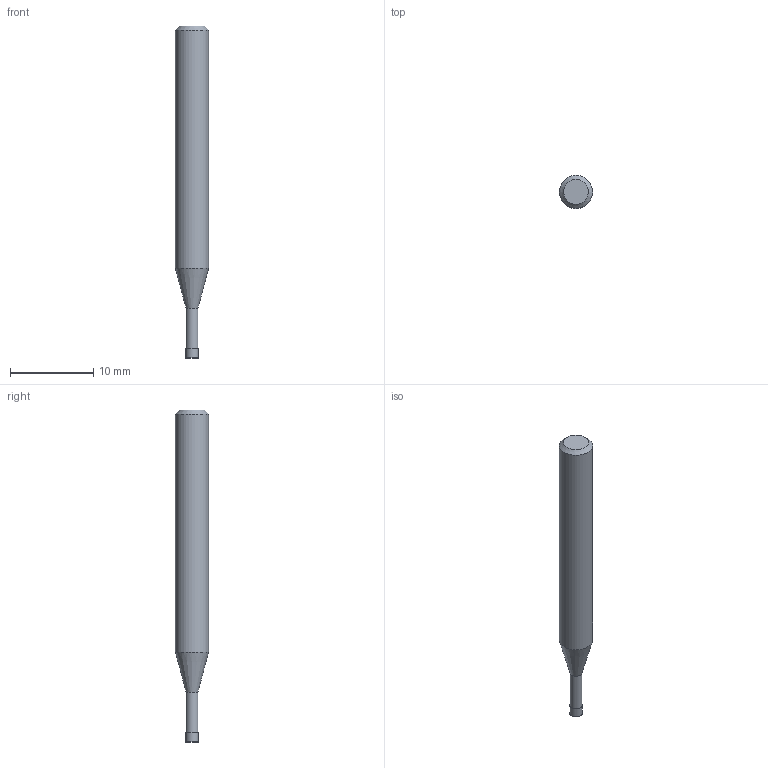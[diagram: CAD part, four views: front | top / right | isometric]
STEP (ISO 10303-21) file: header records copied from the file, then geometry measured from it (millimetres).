
FILE_DESCRIPTION((''),'2;1');
FILE_NAME('C:\Users\nsx150\AppData\Local\Temp\Mastercam 2021\80JYEHYUML\TEMP.step','2022-03-29T14:36:29',(''),(''),'STEP Write','Mastercam 2021 ... CNC Software, Inc.','');
FILE_SCHEMA(('AUTOMOTIVE_DESIGN'));
Length unit declared in the file: millimetre
Products named in the file (1): None
Bounding box: 4 x 4 x 40 mm (x, y, z)
Volume: 405.2 mm3; surface area: 450.2 mm2
Topology: 2 solids, 2 shells, 10 faces, 14 edges, 8 vertices
Faces by surface type: plane 4, cylinder 3, cone 2, torus 1
Full cylindrical faces by diameter (mm): 1.43 x1, 1.5 x1, 4 x1
Entity records: 232 total; most frequent: DIRECTION 40, CARTESIAN_POINT 28, AXIS2_PLACEMENT_3D 20, ORIENTED_EDGE 16, EDGE_LOOP 16, STYLED_ITEM 13, ADVANCED_FACE 10, FACE_BOUND 10
